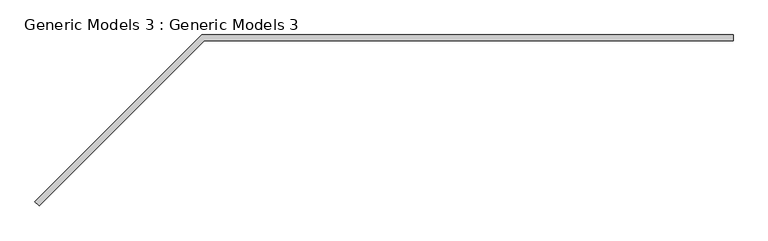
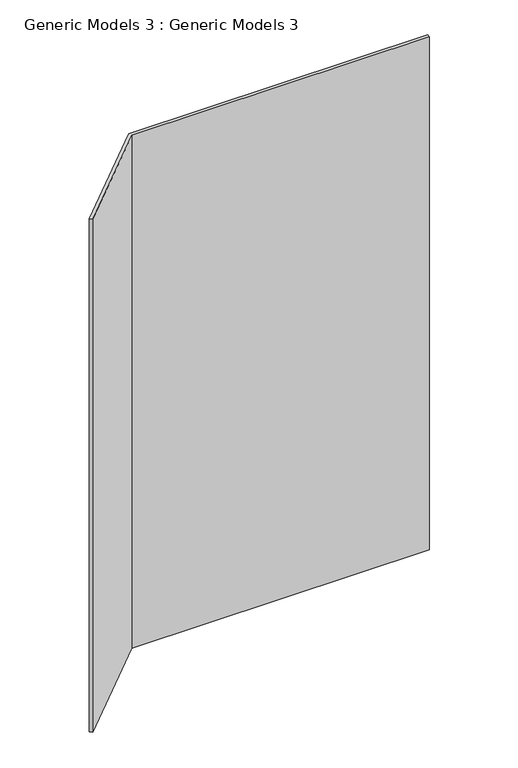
"""IFC4 building model written with IfcOpenShell, lengths in millimetres: proxy geometry, Generic Models 3 : Generic Models 3."""

from ifc_helpers import new_model, si_unit, frame, origin, place, context, project, spatial, polyline, outline, extrude, source, transform, mapped, element, save


def generic_models_3_generic_models_3_e1b9b177(model_context):
    return source(origin(), model_context, "Body", "SweptSolid", [
        extrude(outline(polyline([(127.8109593, 11684.0), (-228.6455319, 11327.5429706), (-237.625788, 11336.5232268), (122.5504414, 11696.7), (1270.0, 11696.7), (1270.0, 11684.0), (127.8109593, 11684.0)])), frame((0.0, 0.0, 3378.2), z_axis=(0.0, 0.0, 1.0), x_axis=(1.0, 0.0, 0.0)), (0.0, 0.0, 1.0), 2082.8),
    ])


if __name__ == "__main__":
    model = new_model("IFC4")
    model_context = context("Model", 3, world=origin())
    ifc_project = project(units=[si_unit("LENGTHUNIT", "METRE", prefix="MILLI")], contexts=[model_context])
    site = spatial("IfcSite", under=ifc_project)
    building = spatial("IfcBuilding", under=site)
    placement = place(None, origin())
    generic_models_3_generic_models_3_shape = generic_models_3_generic_models_3_e1b9b177(model_context)
    element("IfcBuildingElementProxy", 1, Name="Generic Models 3 : Generic Models 3", ObjectType="Generic Models 3 : Generic Models 3", at=placement, inside=building, context=model_context, shape_type="MappedRepresentation", body=[
        mapped(generic_models_3_generic_models_3_shape, transform((0.0, 0.0, 0.0), x_axis=(1.0, 0.0, 0.0), y_axis=(0.0, 1.0, 0.0), z_axis=(0.0, 0.0, 1.0))),
    ])
    save(model, "model.ifc")
